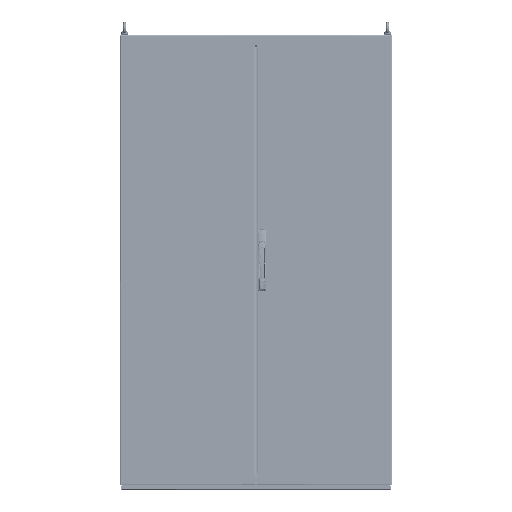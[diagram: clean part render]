
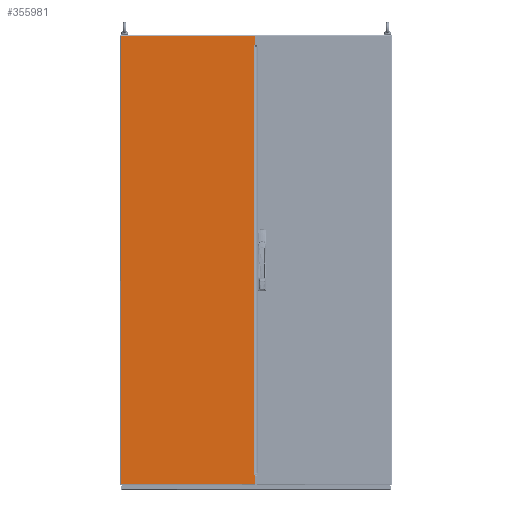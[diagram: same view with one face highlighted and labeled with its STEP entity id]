
A CAD part, top view. The second image highlights one B-rep face of the part: STEP entity #355981.
In plain terms, the highlighted planar face has unit normal (0, 0, 1).
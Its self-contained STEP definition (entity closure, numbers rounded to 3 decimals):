
#1685 = CARTESIAN_POINT ( 'NONE',  ( 298., -991.5, 0. ) ) ;
#5576 = CARTESIAN_POINT ( 'NONE',  ( -294.139, -987.639, 0. ) ) ;
#5746 = CARTESIAN_POINT ( 'NONE',  ( 298., 987.639, 0. ) ) ;
#7116 = CARTESIAN_POINT ( 'NONE',  ( 298., 946.5, 0. ) ) ;
#16483 = VERTEX_POINT ( 'NONE', #5576 ) ;
#33552 = ORIENTED_EDGE ( 'NONE', *, *, #191826, .T. ) ;
#53789 = VERTEX_POINT ( 'NONE', #68846 ) ;
#58045 = DIRECTION ( 'NONE',  ( 0., 0., 1. ) ) ;
#66555 = VECTOR ( 'NONE', #152812, 1000. ) ;
#67492 = ORIENTED_EDGE ( 'NONE', *, *, #146809, .T. ) ;
#68846 = CARTESIAN_POINT ( 'NONE',  ( 294.139, 946.5, 0. ) ) ;
#83211 = VERTEX_POINT ( 'NONE', #5746 ) ;
#87438 = VECTOR ( 'NONE', #177088, 1000. ) ;
#92716 = EDGE_CURVE ( 'NONE', #53789, #178025, #144236, .T. ) ;
#98591 = CARTESIAN_POINT ( 'NONE',  ( -294.139, 991., 0. ) ) ;
#103072 = EDGE_CURVE ( 'NONE', #16483, #143197, #285418, .T. ) ;
#127230 = EDGE_CURVE ( 'NONE', #178025, #83211, #237066, .T. ) ;
#127965 = DIRECTION ( 'NONE',  ( 0., -1., 0. ) ) ;
#129476 = CARTESIAN_POINT ( 'NONE',  ( -294.139, 987.639, 0. ) ) ;
#130018 = LINE ( 'NONE', #297870, #139141 ) ;
#138265 = CARTESIAN_POINT ( 'NONE',  ( -295.638, -987.639, 0. ) ) ;
#139141 = VECTOR ( 'NONE', #233740, 1000. ) ;
#139857 = VECTOR ( 'NONE', #127965, 1000. ) ;
#143197 = VERTEX_POINT ( 'NONE', #298885 ) ;
#144236 = LINE ( 'NONE', #7116, #66555 ) ;
#146809 = EDGE_CURVE ( 'NONE', #277823, #16483, #295755, .T. ) ;
#149750 = CARTESIAN_POINT ( 'NONE',  ( 298., 946.5, 0. ) ) ;
#152812 = DIRECTION ( 'NONE',  ( 1., 0., 0. ) ) ;
#157517 = ORIENTED_EDGE ( 'NONE', *, *, #295570, .T. ) ;
#158268 = VECTOR ( 'NONE', #216295, 1000. ) ;
#159265 = VECTOR ( 'NONE', #277821, 1000. ) ;
#177088 = DIRECTION ( 'NONE',  ( -1., 0., 0. ) ) ;
#178025 = VERTEX_POINT ( 'NONE', #149750 ) ;
#184435 = ORIENTED_EDGE ( 'NONE', *, *, #127230, .T. ) ;
#185226 = LINE ( 'NONE', #1685, #253929 ) ;
#186923 = CARTESIAN_POINT ( 'NONE',  ( 298., 987.639, 0. ) ) ;
#189409 = CARTESIAN_POINT ( 'NONE',  ( 298., -991.5, 0. ) ) ;
#191826 = EDGE_CURVE ( 'NONE', #143197, #328278, #185226, .T. ) ;
#192694 = AXIS2_PLACEMENT_3D ( 'NONE', #233214, #58045, #262783 ) ;
#216295 = DIRECTION ( 'NONE',  ( -1., 0., 0. ) ) ;
#231939 = EDGE_CURVE ( 'NONE', #83211, #277823, #236104, .T. ) ;
#233214 = CARTESIAN_POINT ( 'NONE',  ( 298., -991.5, 0. ) ) ;
#233740 = DIRECTION ( 'NONE',  ( 0., 1., 0. ) ) ;
#234458 = ORIENTED_EDGE ( 'NONE', *, *, #340810, .T. ) ;
#234625 = CARTESIAN_POINT ( 'NONE',  ( 298., -946.5, 0. ) ) ;
#236104 = LINE ( 'NONE', #186923, #158268 ) ;
#236927 = DIRECTION ( 'NONE',  ( 0., 1., 0. ) ) ;
#237066 = LINE ( 'NONE', #189409, #159265 ) ;
#238176 = VERTEX_POINT ( 'NONE', #252377 ) ;
#243110 = LINE ( 'NONE', #234625, #87438 ) ;
#247615 = ORIENTED_EDGE ( 'NONE', *, *, #103072, .T. ) ;
#250940 = ORIENTED_EDGE ( 'NONE', *, *, #231939, .T. ) ;
#252377 = CARTESIAN_POINT ( 'NONE',  ( 294.139, -946.5, 0. ) ) ;
#253929 = VECTOR ( 'NONE', #236927, 1000. ) ;
#257749 = EDGE_LOOP ( 'NONE', ( #33552, #234458, #157517, #347406, #184435, #250940, #67492, #247615 ) ) ;
#262783 = DIRECTION ( 'NONE',  ( 1., 0., 0. ) ) ;
#276217 = VECTOR ( 'NONE', #344545, 1000. ) ;
#277821 = DIRECTION ( 'NONE',  ( 0., 1., 0. ) ) ;
#277823 = VERTEX_POINT ( 'NONE', #129476 ) ;
#285418 = LINE ( 'NONE', #138265, #276217 ) ;
#295570 = EDGE_CURVE ( 'NONE', #238176, #53789, #130018, .T. ) ;
#295755 = LINE ( 'NONE', #98591, #139857 ) ;
#297870 = CARTESIAN_POINT ( 'NONE',  ( 294.139, -946.5, 0. ) ) ;
#298885 = CARTESIAN_POINT ( 'NONE',  ( 298., -987.639, 0. ) ) ;
#309560 = CARTESIAN_POINT ( 'NONE',  ( 298., -946.5, 0. ) ) ;
#328278 = VERTEX_POINT ( 'NONE', #309560 ) ;
#340810 = EDGE_CURVE ( 'NONE', #328278, #238176, #243110, .T. ) ;
#344545 = DIRECTION ( 'NONE',  ( 1., 0., 0. ) ) ;
#347406 = ORIENTED_EDGE ( 'NONE', *, *, #92716, .T. ) ;
#355981 = ADVANCED_FACE ( 'NONE', ( #372473 ), #379396, .T. ) ;
#372473 = FACE_OUTER_BOUND ( 'NONE', #257749, .T. ) ;
#379396 = PLANE ( 'NONE',  #192694 ) ;
